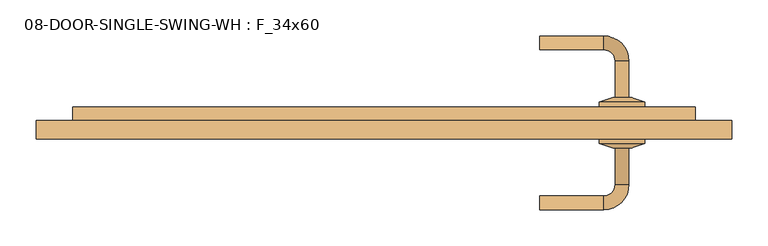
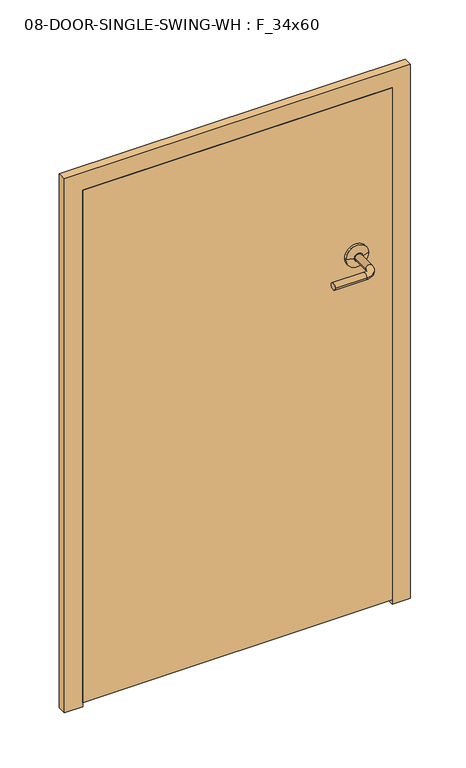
"""IFC4 building model written with IfcOpenShell, lengths in millimetres: door geometry, 08-DOOR-SINGLE-SWING-WH : F_34x60."""

from ifc_helpers import new_model, si_unit, point, frame, origin, place, context, project, spatial, polyline, circle_curve, ellipse_curve, trimmed, outline, extrude, source, transform, mapped, element, save
from ifc_brep_helpers import plane_surface, cylinder_surface, revolved_surface, advanced_brep


def door_08_door_single_swing_wh_f_34x60_2c6df15a(model_context):
    return source(origin(), model_context, "Body", "SolidModel", [
        advanced_brep(
        [(339.0403202, 44.45, 1066.8), (358.0903202, 44.45, 1066.8), (339.0403202, 95.25, 1066.8), (358.0903202, 95.25, 1066.8), (323.1653202, 111.125, 1066.8), (323.1653202, 130.175, 1066.8), (234.2653202, 111.125, 1066.8), (234.2653202, 130.175, 1066.8)],
        [
            (0, 1, circle_curve(frame((348.5653202, 44.45, 1066.8), z_axis=(0.0, -1.0, 0.0), x_axis=(1.0, 0.0, 0.0)), 9.525)),
            (1, 0, circle_curve(frame((348.5653202, 44.45, 1066.8), z_axis=(0.0, -1.0, 0.0), x_axis=(1.0, 0.0, 0.0)), 9.525)),
            (0, 2),
            (2, 3, circle_curve(frame((348.5653202, 95.25, 1066.8), z_axis=(0.0, -1.0, 0.0), x_axis=(1.0, 0.0, 0.0)), 9.525)),
            (3, 1),
            (3, 2, circle_curve(frame((348.5653202, 95.25, 1066.8), z_axis=(0.0, -1.0, 0.0), x_axis=(1.0, 0.0, 0.0)), 9.525)),
            (4, 5, circle_curve(frame((323.1653202, 120.65, 1066.8), z_axis=(1.0, 0.0, 0.0), x_axis=(0.0, 1.0, 0.0)), 9.525)),
            (5, 3, circle_curve(frame((323.1653202, 95.25, 1066.8), z_axis=(0.0, 0.0, -1.0), x_axis=(1.0, 0.0, 0.0)), 34.925)),
            (2, 4, circle_curve(frame((323.1653202, 95.25, 1066.8), z_axis=(0.0, 0.0, 1.0), x_axis=(1.0, 0.0, 0.0)), 15.875)),
            (5, 4, circle_curve(frame((323.1653202, 120.65, 1066.8), z_axis=(1.0, 0.0, 0.0), x_axis=(0.0, 1.0, 0.0)), 9.525)),
            (6, 7, circle_curve(frame((234.2653202, 120.65, 1066.8), z_axis=(-1.0, 0.0, 0.0), x_axis=(0.0, 1.0, 0.0)), 9.525)),
            (7, 6, circle_curve(frame((234.2653202, 120.65, 1066.8), z_axis=(-1.0, 0.0, 0.0), x_axis=(0.0, 1.0, 0.0)), 9.525)),
            (4, 6),
            (7, 5),
        ],
        [
            plane_surface(frame((348.5653202, 44.45, 1066.8), z_axis=(0.0, -1.0, 0.0), x_axis=(0.0, 0.0, 1.0))),
            cylinder_surface(frame((348.5653202, 44.45, 1066.8), z_axis=(0.0, -1.0, 0.0), x_axis=(1.0, 0.0, 0.0)), 9.525),
            revolved_surface(trimmed(ellipse_curve(frame((348.5653202, 95.25, 1066.8), z_axis=(0.0, 1.0, 0.0), x_axis=(1.0, 0.0, 0.0)), 9.525, 9.525), [point((358.0903202, 95.25, 1066.8))], [point((339.0403202, 95.25, 1066.8))], True, "CARTESIAN"), (323.1653202, 95.25, 1066.8), (0.0, 0.0, -1.0)),
            revolved_surface(trimmed(ellipse_curve(frame((348.5653202, 95.25, 1066.8), z_axis=(0.0, 1.0, 0.0), x_axis=(1.0, 0.0, 0.0)), 9.525, 9.525), [point((339.0403202, 95.25, 1066.8))], [point((358.0903202, 95.25, 1066.8))], True, "CARTESIAN"), (323.1653202, 95.25, 1066.8), (0.0, 0.0, -1.0)),
            plane_surface(frame((234.2653202, 120.65, 1066.8), z_axis=(-1.0, 0.0, 0.0), x_axis=(0.0, 0.0, 1.0))),
            cylinder_surface(frame((323.1653202, 120.65, 1066.8), z_axis=(1.0, 0.0, 0.0), x_axis=(0.0, 1.0, 0.0)), 9.525),
        ],
        [
            (0, [[1, 2]]),
            (1, [[3, 4, 5, -1]]),
            (1, [[-5, 6, -3, -2]]),
            (2, [[7, 8, -4, 9]]),
            (3, [[10, -9, -6, -8]]),
            (4, [[11, 12]]),
            (5, [[13, -12, 14, -7]]),
            (5, [[-14, -11, -13, -10]]),
        ],
    ),
        advanced_brep(
        [(348.5653202, 31.75, 1066.8), (316.8153202, 31.75, 1066.8), (380.3153202, 31.75, 1066.8), (316.8153202, 38.1, 1066.8), (380.3153202, 38.1, 1066.8), (335.8653202, 44.45, 1066.8), (361.2653202, 44.45, 1066.8), (348.5653202, 44.45, 1066.8)],
        [
            (0, 1),
            (1, 2, circle_curve(frame((348.5653202, 31.75, 1066.8), z_axis=(0.0, -1.0, 0.0), x_axis=(1.0, 0.0, 0.0)), 31.75)),
            (2, 0),
            (2, 1, circle_curve(frame((348.5653202, 31.75, 1066.8), z_axis=(0.0, -1.0, 0.0), x_axis=(1.0, 0.0, 0.0)), 31.75)),
            (1, 3),
            (3, 4, circle_curve(frame((348.5653202, 38.1, 1066.8), z_axis=(0.0, -1.0, 0.0), x_axis=(1.0, 0.0, 0.0)), 31.75)),
            (4, 2),
            (4, 3, circle_curve(frame((348.5653202, 38.1, 1066.8), z_axis=(0.0, -1.0, 0.0), x_axis=(1.0, 0.0, 0.0)), 31.75)),
            (3, 5),
            (5, 6, circle_curve(frame((348.5653202, 44.45, 1066.8), z_axis=(0.0, -1.0, 0.0), x_axis=(1.0, 0.0, 0.0)), 12.7)),
            (6, 4),
            (6, 5, circle_curve(frame((348.5653202, 44.45, 1066.8), z_axis=(0.0, -1.0, 0.0), x_axis=(1.0, 0.0, 0.0)), 12.7)),
            (5, 7),
            (7, 6),
        ],
        [
            plane_surface(frame((348.5653202, 31.75, 1066.8), z_axis=(0.0, -1.0, 0.0), x_axis=(1.0, 0.0, 0.0))),
            cylinder_surface(frame((348.5653202, 41.3581496, 1066.8), z_axis=(0.0, -1.0, 0.0), x_axis=(1.0, 0.0, 0.0)), 31.75),
            revolved_surface(polyline([(361.2653202, 44.45, 1066.8), (380.3153202, 38.1, 1066.8)]), (348.5653202, 41.3581496, 1066.8), (0.0, -1.0, 0.0)),
            plane_surface(frame((348.5653202, 44.45, 1066.8), z_axis=(0.0, 1.0, 0.0), x_axis=(1.0, 0.0, 0.0))),
        ],
        [
            (0, [[1, 2, 3]]),
            (0, [[-3, 4, -1]]),
            (1, [[5, 6, 7, -2]]),
            (1, [[-7, 8, -5, -4]]),
            (2, [[9, 10, 11, -6]]),
            (2, [[-11, 12, -9, -8]]),
            (3, [[13, 14, -10]]),
            (3, [[-14, -13, -12]]),
        ],
    ),
        advanced_brep(
        [(358.0903202, -25.4, 1066.8), (339.0403202, -25.4, 1066.8), (339.0403202, -76.2, 1066.8), (358.0903202, -76.2, 1066.8), (323.1653202, -92.075, 1066.8), (323.1653202, -111.125, 1066.8), (234.2653202, -111.125, 1066.8), (234.2653202, -92.075, 1066.8)],
        [
            (0, 1, circle_curve(frame((348.5653202, -25.4, 1066.8), z_axis=(0.0, 1.0, 0.0), x_axis=(-1.0, 0.0, 0.0)), 9.525)),
            (1, 0, circle_curve(frame((348.5653202, -25.4, 1066.8), z_axis=(0.0, 1.0, 0.0), x_axis=(-1.0, 0.0, 0.0)), 9.525)),
            (1, 2),
            (2, 3, circle_curve(frame((348.5653202, -76.2, 1066.8), z_axis=(0.0, 1.0, 0.0), x_axis=(-1.0, 0.0, 0.0)), 9.525)),
            (3, 0),
            (3, 2, circle_curve(frame((348.5653202, -76.2, 1066.8), z_axis=(0.0, 1.0, 0.0), x_axis=(-1.0, 0.0, 0.0)), 9.525)),
            (4, 5, circle_curve(frame((323.1653202, -101.6, 1066.8), z_axis=(1.0, 0.0, 0.0), x_axis=(0.0, 1.0, 0.0)), 9.525)),
            (5, 3, circle_curve(frame((323.1653202, -76.2, 1066.8), z_axis=(0.0, 0.0, 1.0), x_axis=(1.0, 0.0, 0.0)), 34.925)),
            (2, 4, circle_curve(frame((323.1653202, -76.2, 1066.8), z_axis=(0.0, 0.0, -1.0), x_axis=(1.0, 0.0, 0.0)), 15.875)),
            (5, 4, circle_curve(frame((323.1653202, -101.6, 1066.8), z_axis=(1.0, 0.0, 0.0), x_axis=(0.0, 1.0, 0.0)), 9.525)),
            (6, 7, circle_curve(frame((234.2653202, -101.6, 1066.8), z_axis=(-1.0, 0.0, 0.0), x_axis=(0.0, 1.0, 0.0)), 9.525)),
            (7, 6, circle_curve(frame((234.2653202, -101.6, 1066.8), z_axis=(-1.0, 0.0, 0.0), x_axis=(0.0, 1.0, 0.0)), 9.525)),
            (4, 7),
            (6, 5),
        ],
        [
            plane_surface(frame((348.5653202, -25.4, 1066.8), z_axis=(0.0, 1.0, 0.0), x_axis=(0.0, 0.0, 1.0))),
            cylinder_surface(frame((348.5653202, -25.4, 1066.8), z_axis=(0.0, 1.0, 0.0), x_axis=(-1.0, 0.0, 0.0)), 9.525),
            revolved_surface(trimmed(ellipse_curve(frame((348.5653202, -76.2, 1066.8), z_axis=(0.0, -1.0, 0.0), x_axis=(-1.0, 0.0, 0.0)), 9.525, 9.525), [point((358.0903202, -76.2, 1066.8))], [point((339.0403202, -76.2, 1066.8))], True, "CARTESIAN"), (323.1653202, -76.2, 1066.8), (0.0, 0.0, 1.0)),
            revolved_surface(trimmed(ellipse_curve(frame((348.5653202, -76.2, 1066.8), z_axis=(0.0, -1.0, 0.0), x_axis=(-1.0, 0.0, 0.0)), 9.525, 9.525), [point((339.0403202, -76.2, 1066.8))], [point((358.0903202, -76.2, 1066.8))], True, "CARTESIAN"), (323.1653202, -76.2, 1066.8), (0.0, 0.0, 1.0)),
            plane_surface(frame((234.2653202, -101.6, 1066.8), z_axis=(-1.0, 0.0, 0.0), x_axis=(0.0, 0.0, 1.0))),
            cylinder_surface(frame((323.1653202, -101.6, 1066.8), z_axis=(1.0, 0.0, 0.0), x_axis=(0.0, 1.0, 0.0)), 9.525),
        ],
        [
            (0, [[1, 2]]),
            (1, [[3, 4, 5, -2]]),
            (1, [[-5, 6, -3, -1]]),
            (2, [[7, 8, -4, 9]]),
            (3, [[10, -9, -6, -8]]),
            (4, [[11, 12]]),
            (5, [[13, -11, 14, -7]]),
            (5, [[-14, -12, -13, -10]]),
        ],
    ),
        advanced_brep(
        [(316.8153202, -12.7, 1066.8), (348.5653202, -12.7, 1066.8), (380.3153202, -12.7, 1066.8), (316.8153202, -19.05, 1066.8), (380.3153202, -19.05, 1066.8), (335.8653202, -25.4, 1066.8), (361.2653202, -25.4, 1066.8), (348.5653202, -25.4, 1066.8)],
        [
            (0, 1),
            (1, 2),
            (2, 0, circle_curve(frame((348.5653202, -12.7, 1066.8), z_axis=(0.0, 1.0, 0.0), x_axis=(1.0, 0.0, 0.0)), 31.75)),
            (0, 2, circle_curve(frame((348.5653202, -12.7, 1066.8), z_axis=(0.0, 1.0, 0.0), x_axis=(1.0, 0.0, 0.0)), 31.75)),
            (3, 0),
            (2, 4),
            (4, 3, circle_curve(frame((348.5653202, -19.05, 1066.8), z_axis=(0.0, 1.0, 0.0), x_axis=(1.0, 0.0, 0.0)), 31.75)),
            (3, 4, circle_curve(frame((348.5653202, -19.05, 1066.8), z_axis=(0.0, 1.0, 0.0), x_axis=(1.0, 0.0, 0.0)), 31.75)),
            (5, 3),
            (4, 6),
            (6, 5, circle_curve(frame((348.5653202, -25.4, 1066.8), z_axis=(0.0, 1.0, 0.0), x_axis=(1.0, 0.0, 0.0)), 12.7)),
            (5, 6, circle_curve(frame((348.5653202, -25.4, 1066.8), z_axis=(0.0, 1.0, 0.0), x_axis=(1.0, 0.0, 0.0)), 12.7)),
            (7, 5),
            (6, 7),
        ],
        [
            plane_surface(frame((348.5653202, -12.7, 1066.8), z_axis=(0.0, 1.0, 0.0), x_axis=(1.0, 0.0, 0.0))),
            cylinder_surface(frame((348.5653202, -22.3081496, 1066.8), z_axis=(0.0, -1.0, 0.0), x_axis=(1.0, 0.0, 0.0)), 31.75),
            revolved_surface(polyline([(380.3153202, -19.05, 1066.8), (361.2653202, -25.4, 1066.8)]), (348.5653202, -22.3081496, 1066.8), (0.0, -1.0, 0.0)),
            plane_surface(frame((348.5653202, -25.4, 1066.8), z_axis=(0.0, -1.0, 0.0), x_axis=(1.0, 0.0, 0.0))),
        ],
        [
            (0, [[1, 2, 3]]),
            (0, [[-2, -1, 4]]),
            (1, [[5, -3, 6, 7]]),
            (1, [[-6, -4, -5, 8]]),
            (2, [[9, -7, 10, 11]]),
            (2, [[-10, -8, -9, 12]]),
            (3, [[13, -11, 14]]),
            (3, [[-14, -12, -13]]),
        ],
    ),
        extrude(outline(polyline([(450.1653202, 31.75), (450.1653202, -12.7), (-413.4346798, -12.7), (-413.4346798, 31.75), (450.1653202, 31.75)])), frame((0.0, 0.0, 12.7), z_axis=(0.0, 0.0, 1.0), x_axis=(1.0, 0.0, 0.0)), (0.0, 0.0, 1.0), 1511.3),
        extrude(outline(polyline([(0.0, 500.9653202), (1574.8, 500.9653202), (1574.8, -464.2346798), (0.0, -464.2346798), (0.0, -413.4346798), (1524.0, -413.4346798), (1524.0, 450.1653202), (0.0, 450.1653202), (0.0, 500.9653202)])), frame((0.0, -12.7, 0.0), z_axis=(0.0, 1.0, 0.0), x_axis=(0.0, 0.0, 1.0)), (0.0, 0.0, 1.0), 25.4),
    ])


if __name__ == "__main__":
    model = new_model("IFC4")
    model_context = context("Model", 3, world=origin())
    ifc_project = project(units=[si_unit("LENGTHUNIT", "METRE", prefix="MILLI")], contexts=[model_context])
    site = spatial("IfcSite", under=ifc_project)
    building = spatial("IfcBuilding", under=site)
    placement = place(None, origin())
    door_08_door_single_swing_wh_f_34x60_shape = door_08_door_single_swing_wh_f_34x60_2c6df15a(model_context)
    element("IfcDoor", 1, ObjectType="08-DOOR-SINGLE-SWING-WH : F_34x60", at=placement, inside=building, context=model_context, shape_type="MappedRepresentation", body=[
        mapped(door_08_door_single_swing_wh_f_34x60_shape, transform((0.0, 0.0, 0.0), x_axis=(1.0, 0.0, 0.0), y_axis=(0.0, 1.0, 0.0), z_axis=(0.0, 0.0, 1.0))),
    ])
    save(model, "model.ifc")
